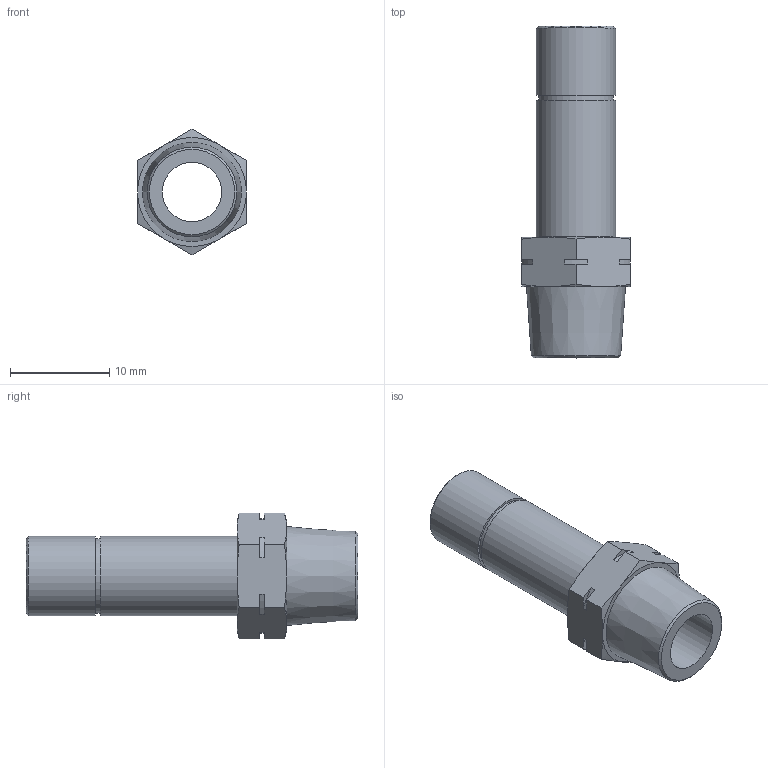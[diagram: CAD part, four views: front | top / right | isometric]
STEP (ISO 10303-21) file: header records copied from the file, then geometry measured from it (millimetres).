
FILE_DESCRIPTION(/* description */ (''),/* implementation_level */ '2;1');
FILE_NAME(/* name */ 'LXH15 0008 N1.stp',/* time_stamp */ '2026-04-28T16:21:52+02:00',/* author */ ('freju'),/* organization */ (''),/* preprocessor_version */ 'ST-DEVELOPER v20.1',/* originating_system */ 'Autodesk Inventor 2026',/* authorisation */ '');
FILE_SCHEMA (('AUTOMOTIVE_DESIGN { 1 0 10303 214 3 1 1 }'));
Length unit declared in the file: millimetre
Products named in the file (1): LXH15 0006 B1
Bounding box: 11 x 33.5 x 12.7 mm (x, y, z)
Volume: 1151.1 mm3; surface area: 1717.2 mm2
Topology: 1 solids, 1 shells, 49 faces, 117 edges, 74 vertices
Faces by surface type: plane 24, cone 15, cylinder 10
Full cylindrical faces by diameter (mm): 6 x1, 7.5 x1, 8 x2
Entity records: 1436 total; most frequent: CARTESIAN_POINT 289, ORIENTED_EDGE 234, DIRECTION 231, EDGE_CURVE 117, AXIS2_PLACEMENT_3D 88, VERTEX_POINT 74, EDGE_LOOP 55, LINE 55
